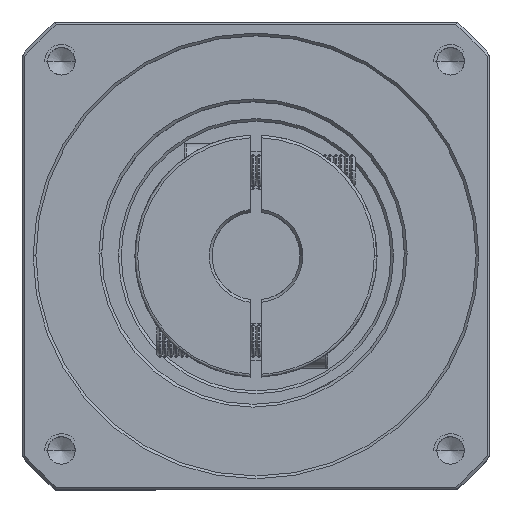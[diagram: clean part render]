
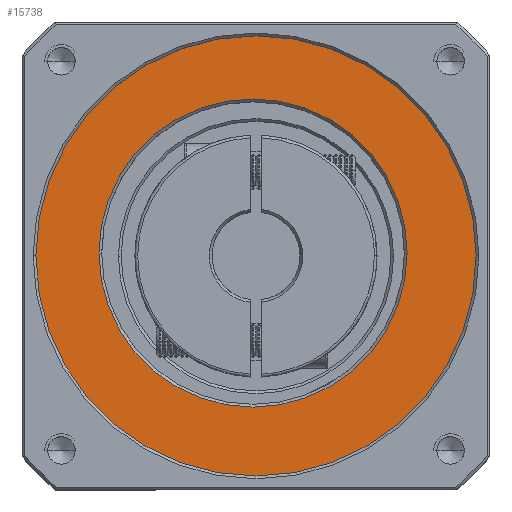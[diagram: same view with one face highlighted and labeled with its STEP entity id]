
A CAD part, top view. The second image highlights one B-rep face of the part: STEP entity #15738.
In plain terms, the highlighted planar face has unit normal (0, 0, 1).
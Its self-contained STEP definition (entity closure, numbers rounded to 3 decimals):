
#112 = FACE_OUTER_BOUND ( 'NONE', #51575, .T. ) ;
#1006 = CIRCLE ( 'NONE', #104664, 40. ) ;
#3754 = DIRECTION ( 'NONE',  ( 0., 0., 1. ) ) ;
#7259 = AXIS2_PLACEMENT_3D ( 'NONE', #62709, #3754, #72566 ) ;
#9772 = DIRECTION ( 'NONE',  ( 1., 0., 0. ) ) ;
#12654 = EDGE_CURVE ( 'NONE', #116807, #50955, #1006, .T. ) ;
#14268 = CIRCLE ( 'NONE', #75382, 40. ) ;
#14648 = EDGE_CURVE ( 'NONE', #50955, #116807, #14268, .T. ) ;
#15738 = ADVANCED_FACE ( 'NONE', ( #112, #75495 ), #47412, .T. ) ;
#21991 = EDGE_LOOP ( 'NONE', ( #26699, #110001 ) ) ;
#23435 = EDGE_CURVE ( 'NONE', #119138, #28601, #41793, .T. ) ;
#26699 = ORIENTED_EDGE ( 'NONE', *, *, #27751, .T. ) ;
#27751 = EDGE_CURVE ( 'NONE', #28601, #119138, #83048, .T. ) ;
#28601 = VERTEX_POINT ( 'NONE', #79115 ) ;
#36021 = CARTESIAN_POINT ( 'NONE',  ( -95.926, 18.511, 20.519 ) ) ;
#41309 = CARTESIAN_POINT ( 'NONE',  ( -96.468, 19.045, 20.519 ) ) ;
#41793 = CIRCLE ( 'NONE', #55451, 28. ) ;
#45930 = CARTESIAN_POINT ( 'NONE',  ( -96.468, 19.045, 20.519 ) ) ;
#45980 = DIRECTION ( 'NONE',  ( 1., 0., 0. ) ) ;
#47412 = PLANE ( 'NONE',  #7259 ) ;
#50955 = VERTEX_POINT ( 'NONE', #115244 ) ;
#51280 = DIRECTION ( 'NONE',  ( 1., 0., 0. ) ) ;
#51575 = EDGE_LOOP ( 'NONE', ( #104596, #80508 ) ) ;
#55451 = AXIS2_PLACEMENT_3D ( 'NONE', #41309, #109901, #51280 ) ;
#55803 = DIRECTION ( 'NONE',  ( 1., 0., 0. ) ) ;
#62709 = CARTESIAN_POINT ( 'NONE',  ( -95.926, 18.511, 20.519 ) ) ;
#68697 = DIRECTION ( 'NONE',  ( 0., 0., 1. ) ) ;
#72566 = DIRECTION ( 'NONE',  ( 1., 0., 0. ) ) ;
#75382 = AXIS2_PLACEMENT_3D ( 'NONE', #36021, #104648, #45980 ) ;
#75425 = CARTESIAN_POINT ( 'NONE',  ( -55.926, 18.511, 20.519 ) ) ;
#75495 = FACE_BOUND ( 'NONE', #21991, .T. ) ;
#79115 = CARTESIAN_POINT ( 'NONE',  ( -68.468, 19.045, 20.519 ) ) ;
#80508 = ORIENTED_EDGE ( 'NONE', *, *, #14648, .T. ) ;
#83048 = CIRCLE ( 'NONE', #90566, 28. ) ;
#90566 = AXIS2_PLACEMENT_3D ( 'NONE', #45930, #114423, #55803 ) ;
#104596 = ORIENTED_EDGE ( 'NONE', *, *, #12654, .T. ) ;
#104648 = DIRECTION ( 'NONE',  ( 0., 0., 1. ) ) ;
#104664 = AXIS2_PLACEMENT_3D ( 'NONE', #127383, #68697, #9772 ) ;
#109901 = DIRECTION ( 'NONE',  ( 0., 0., -1. ) ) ;
#110001 = ORIENTED_EDGE ( 'NONE', *, *, #23435, .T. ) ;
#110005 = CARTESIAN_POINT ( 'NONE',  ( -124.468, 19.045, 20.519 ) ) ;
#114423 = DIRECTION ( 'NONE',  ( 0., 0., -1. ) ) ;
#115244 = CARTESIAN_POINT ( 'NONE',  ( -135.926, 18.511, 20.519 ) ) ;
#116807 = VERTEX_POINT ( 'NONE', #75425 ) ;
#119138 = VERTEX_POINT ( 'NONE', #110005 ) ;
#127383 = CARTESIAN_POINT ( 'NONE',  ( -95.926, 18.511, 20.519 ) ) ;
